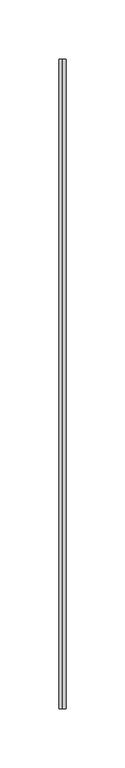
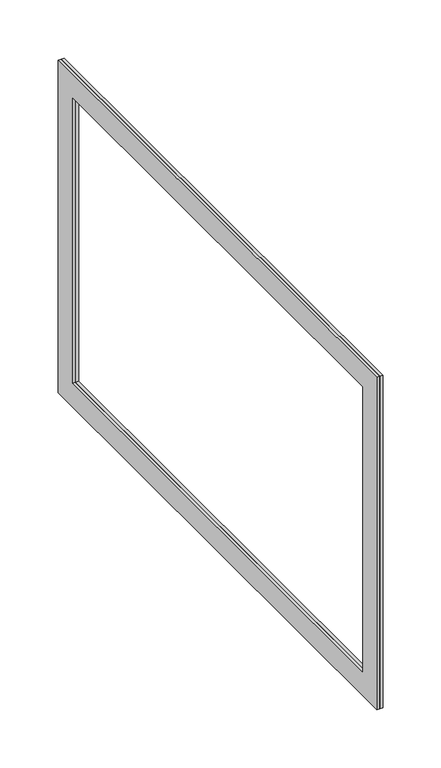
"""IFC4 building model written with IfcOpenShell, lengths in millimetres: duct fitting geometry, BL_ФланецВоздуховдов-Двойной_Прямоугольный_БезКоннекторов : BL_ФланецВоздуховдов-Двойной_Прямоугольный_БезКоннекторов."""

from ifc_helpers import new_model, si_unit, frame, origin, place, context, project, spatial, polyline, outline, extrude, source, transform, mapped, element, save


def duct_fitting_d4da9353(model_context):
    return source(origin(), model_context, "Body", "SweptSolid", [
        extrude(outline(polyline([(-320.6742229, 175.0), (229.3257771, 175.0), (229.3257771, -175.0), (-320.6742229, -175.0), (-320.6742229, 175.0)]), holes=[polyline([(-295.6742229, 150.0), (-295.6742229, -150.0), (204.3257771, -150.0), (204.3257771, 150.0), (-295.6742229, 150.0)])]), frame((0.0, 0.0, 0.0), z_axis=(1.0, 0.0, 0.0), x_axis=(0.0, 1.0, 0.0)), (0.0, 0.0, 1.0), 3.0),
        extrude(outline(polyline([(-320.6742229, 175.0), (229.3257771, 175.0), (229.3257771, -175.0), (-320.6742229, -175.0), (-320.6742229, 175.0)]), holes=[polyline([(204.3257771, 150.0), (-295.6742229, 150.0), (-295.6742229, -150.0), (204.3257771, -150.0), (204.3257771, 150.0)])]), frame((-3.0, 0.0, 0.0), z_axis=(1.0, 0.0, 0.0), x_axis=(0.0, 1.0, 0.0)), (0.0, 0.0, 1.0), 3.0),
    ])


if __name__ == "__main__":
    model = new_model("IFC4")
    model_context = context("Model", 3, world=origin())
    ifc_project = project(units=[si_unit("LENGTHUNIT", "METRE", prefix="MILLI")], contexts=[model_context])
    site = spatial("IfcSite", under=ifc_project)
    building = spatial("IfcBuilding", under=site)
    placement = place(None, origin())
    duct_fitting_shape = duct_fitting_d4da9353(model_context)
    element("IfcDuctFitting", 1, ObjectType="BL_ФланецВоздуховдов-Двойной_Прямоугольный_БезКоннекторов : BL_ФланецВоздуховдов-Двойной_Прямоугольный_БезКоннекторов", at=placement, inside=building, context=model_context, shape_type="MappedRepresentation", body=[
        mapped(duct_fitting_shape, transform((0.0, 0.0, 0.0), x_axis=(1.0, 0.0, 0.0), y_axis=(0.0, 1.0, 0.0), z_axis=(0.0, 0.0, 1.0))),
    ])
    save(model, "model.ifc")
